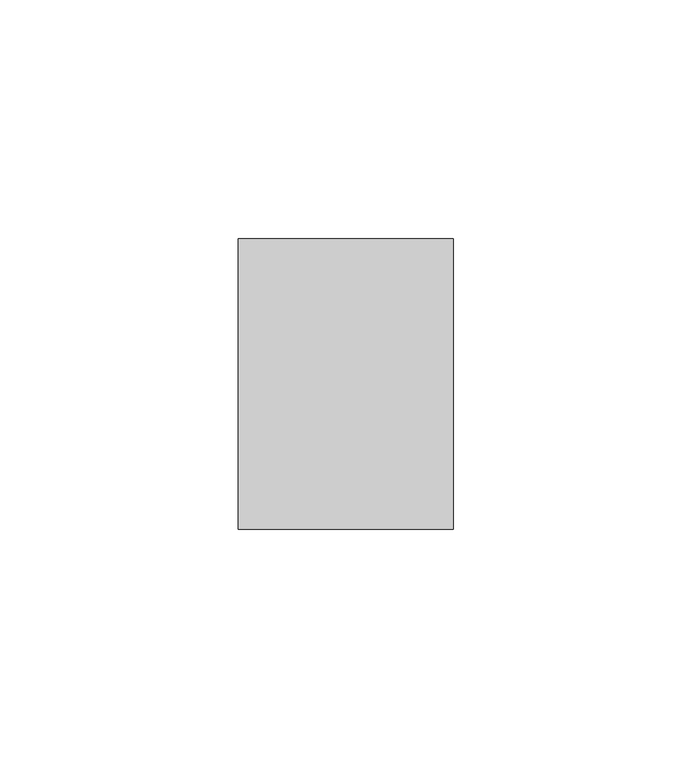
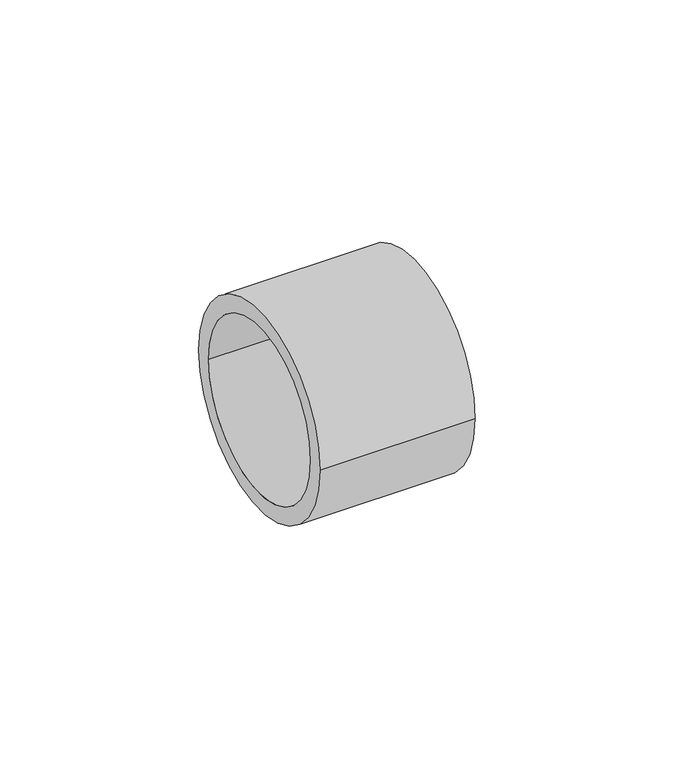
"""IFC4 building model written with IfcOpenShell, lengths in millimetres: pipe fitting geometry, REHAU_RAUTITAN_Sleeve_PX : REHAU_RAUTITAN_Sleeve_PX."""

from ifc_helpers import new_model, si_unit, point, frame, origin, origin_2d, place, context, project, spatial, circle_curve, trimmed, segment, composite_curve, outline, extrude, source, transform, mapped, element, save


def pipe_fitting_cb618aad(model_context):
    return source(origin(), model_context, "Body", "SweptSolid", [
        extrude(outline(composite_curve([segment(trimmed(circle_curve(origin_2d(), 30.5), [point((-30.5, 0.0))], [point((30.5, 0.0))], False, "CARTESIAN"), True, "CONTINUOUS"), segment(trimmed(circle_curve(origin_2d(), 30.5), [point((30.5, 0.0))], [point((-30.5, 0.0))], False, "CARTESIAN"), True, "CONTINUOUS")], self_intersect=False), holes=[composite_curve([segment(trimmed(circle_curve(origin_2d(), 25.55), [point((-25.55, 0.0))], [point((25.55, 0.0))], True, "CARTESIAN"), True, "CONTINUOUS"), segment(trimmed(circle_curve(origin_2d(), 25.55), [point((25.55, 0.0))], [point((-25.55, 0.0))], True, "CARTESIAN"), True, "CONTINUOUS")], self_intersect=False)]), frame((0.0, 0.0, 0.0), z_axis=(1.0, 0.0, 0.0), x_axis=(0.0, 1.0, 0.0)), (0.0, 0.0, 1.0), 45.0),
    ])


if __name__ == "__main__":
    model = new_model("IFC4")
    model_context = context("Model", 3, world=origin())
    ifc_project = project(units=[si_unit("LENGTHUNIT", "METRE", prefix="MILLI")], contexts=[model_context])
    site = spatial("IfcSite", under=ifc_project)
    building = spatial("IfcBuilding", under=site)
    placement = place(None, origin())
    pipe_fitting_shape = pipe_fitting_cb618aad(model_context)
    element("IfcPipeFitting", 1, ObjectType="REHAU_RAUTITAN_Sleeve_PX : REHAU_RAUTITAN_Sleeve_PX", at=placement, inside=building, context=model_context, shape_type="MappedRepresentation", body=[
        mapped(pipe_fitting_shape, transform((0.0, 0.0, 0.0), x_axis=(1.0, 0.0, 0.0), y_axis=(0.0, 1.0, 0.0), z_axis=(0.0, 0.0, 1.0))),
    ])
    save(model, "model.ifc")
